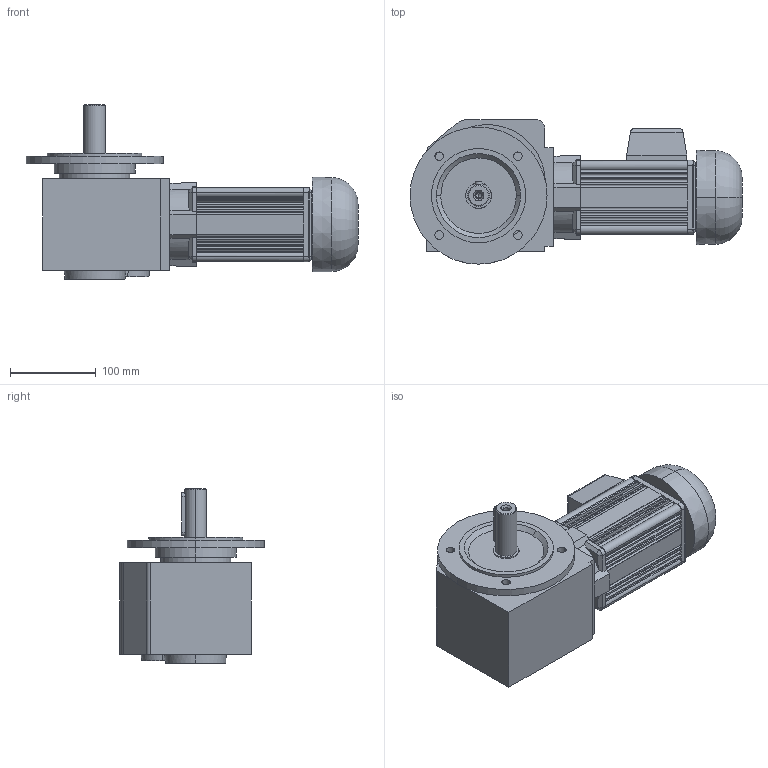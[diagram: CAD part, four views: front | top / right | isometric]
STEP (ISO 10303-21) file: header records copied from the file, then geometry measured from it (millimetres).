
FILE_DESCRIPTION(('OneSpaceDesigner STEP Export'),'2;1');
FILE_NAME('OEG52_ZF48_F.stp','2008-06-23T13:31:50',(''),(''),'OneSpace Designer STEP processor (Jan. 2003) for AP214(CD)(Solid Model)','OneSpace Designer 12.01D 09-Jul-2004 (C) CoCreate Software GmbH','');
FILE_SCHEMA(('AUTOMOTIVE_DESIGN_CC2 {1 2 10303 214 -1 1 5 1}'));
Length unit declared in the file: millimetre
Products named in the file (2): OEG52_ZF48_F
Assembly tree (1 placements, depth 2):
  OEG52_ZF48_F
    OEG52_ZF48_F
Bounding box: 387.5 x 168.5 x 204 mm (x, y, z)
Volume: 4450831.3 mm3; surface area: 280890.3 mm2
Topology: 1 solids, 1 shells, 378 faces, 997 edges, 625 vertices
Faces by surface type: plane 200, cylinder 120, bspline 48, cone 8, torus 2
Entity records: 21539 total; most frequent: CARTESIAN_POINT 13189, ORIENTED_EDGE 1990, DIRECTION 1369, EDGE_CURVE 995, VERTEX_POINT 625, VECTOR 561, LINE 561, AXIS2_PLACEMENT_3D 404
